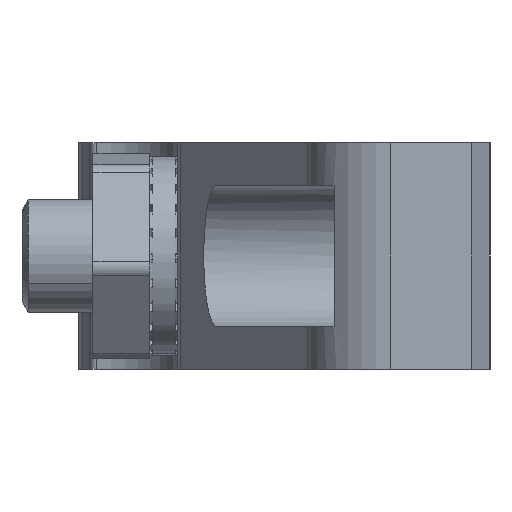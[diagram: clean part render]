
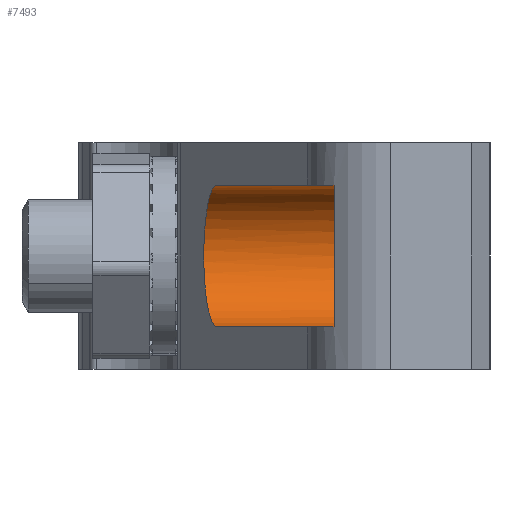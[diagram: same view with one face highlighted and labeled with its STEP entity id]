
A CAD part, left-side view. The second image highlights one B-rep face of the part: STEP entity #7493.
In plain terms, the highlighted cylindrical face has radius 2.5 mm (diameter 5 mm), a partial arc.
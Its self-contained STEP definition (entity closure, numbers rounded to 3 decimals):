
#78 = CARTESIAN_POINT ( 'NONE',  ( -21.5, -0.5, -2.5 ) ) ;
#79 = DIRECTION ( 'NONE',  ( 0., 1., 0. ) ) ;
#85 = CARTESIAN_POINT ( 'NONE',  ( -21.5, -0.5, 2.5 ) ) ;
#92 = DIRECTION ( 'NONE',  ( 0., 1., 0. ) ) ;
#95 = CARTESIAN_POINT ( 'NONE',  ( -16.5, 4.545, -2.5 ) ) ;
#96 = CARTESIAN_POINT ( 'NONE',  ( -21.5, 3.636, -2.5 ) ) ;
#103 = CARTESIAN_POINT ( 'NONE',  ( -16.5, 4.545, 2.5 ) ) ;
#104 = CARTESIAN_POINT ( 'NONE',  ( -21.5, 3.636, 2.5 ) ) ;
#128 = CARTESIAN_POINT ( 'NONE',  ( -21.5, -0.5, 0. ) ) ;
#129 = DIRECTION ( 'NONE',  ( 0., 1., 0. ) ) ;
#130 = DIRECTION ( 'NONE',  ( -1., 0., 0. ) ) ;
#1183 = LINE ( 'NONE', #78, #1186 ) ;
#1186 = VECTOR ( 'NONE', #79, 1000. ) ;
#1189 = LINE ( 'NONE', #85, #1194 ) ;
#1194 = VECTOR ( 'NONE', #92, 1000. ) ;
#1210 = CIRCLE ( 'NONE', #7243, 2.5 ) ;
#2499 = CARTESIAN_POINT ( 'NONE',  ( -21.5, -0.5, 2.5 ) ) ;
#2597 = CARTESIAN_POINT ( 'NONE',  ( -21.5, 3.636, 2.5 ) ) ;
#2735 = CARTESIAN_POINT ( 'NONE',  ( -21.5, 3.636, -2.5 ) ) ;
#2753 = CARTESIAN_POINT ( 'NONE',  ( -21.5, -0.5, -2.5 ) ) ;
#4248 = FACE_OUTER_BOUND ( 'NONE', #8324, .T. ) ;
#4253 = CYLINDRICAL_SURFACE ( 'NONE', #7274, 2.5 ) ;
#4455 = ORIENTED_EDGE ( 'NONE', *, *, #9370, .F. ) ;
#4456 = ORIENTED_EDGE ( 'NONE', *, *, #9365, .T. ) ;
#4457 = ORIENTED_EDGE ( 'NONE', *, *, #9379, .F. ) ;
#4458 = ORIENTED_EDGE ( 'NONE', *, *, #9360, .F. ) ;
#5890 = DIRECTION ( 'NONE',  ( 0., 1., 0. ) ) ;
#5895 = DIRECTION ( 'NONE',  ( -1., 0., 0. ) ) ;
#5921 = CARTESIAN_POINT ( 'NONE',  ( -21.5, -0.5, 0. ) ) ;
#6446 =( BOUNDED_CURVE ( )  B_SPLINE_CURVE ( 3, ( #96, #95, #103, #104 ),
 .UNSPECIFIED., .F., .T. ) 
 B_SPLINE_CURVE_WITH_KNOTS ( ( 4, 4 ),
 ( 4.712, 7.854 ),
 .UNSPECIFIED. ) 
 CURVE ( )  GEOMETRIC_REPRESENTATION_ITEM ( )  RATIONAL_B_SPLINE_CURVE ( ( 1., 0.333, 0.333, 1. ) ) 
 REPRESENTATION_ITEM ( '' )  );
#7243 = AXIS2_PLACEMENT_3D ( 'NONE', #128, #129, #130 ) ;
#7274 = AXIS2_PLACEMENT_3D ( 'NONE', #5921, #5890, #5895 ) ;
#7493 = ADVANCED_FACE ( 'NONE', ( #4248 ), #4253, .F. ) ;
#8324 = EDGE_LOOP ( 'NONE', ( #4458, #4457, #4456, #4455 ) ) ;
#8605 = VERTEX_POINT ( 'NONE', #2753 ) ;
#8610 = VERTEX_POINT ( 'NONE', #2735 ) ;
#8711 = VERTEX_POINT ( 'NONE', #2597 ) ;
#8786 = VERTEX_POINT ( 'NONE', #2499 ) ;
#9360 = EDGE_CURVE ( 'NONE', #8605, #8610, #1183, .T. ) ;
#9365 = EDGE_CURVE ( 'NONE', #8786, #8711, #1189, .T. ) ;
#9370 = EDGE_CURVE ( 'NONE', #8610, #8711, #6446, .T. ) ;
#9379 = EDGE_CURVE ( 'NONE', #8786, #8605, #1210, .T. ) ;
